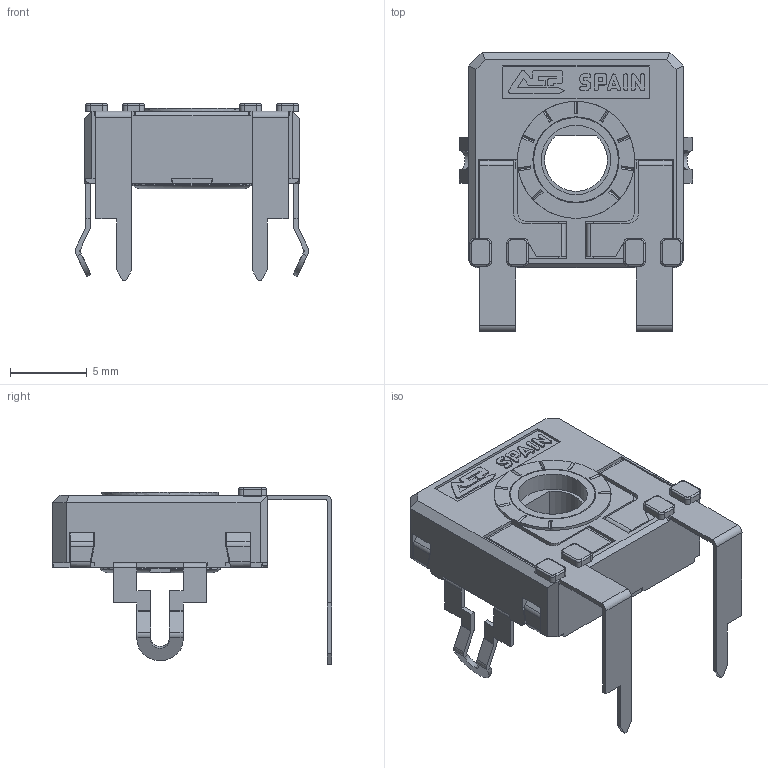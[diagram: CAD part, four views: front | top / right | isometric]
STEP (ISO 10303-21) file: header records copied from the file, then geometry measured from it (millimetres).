
FILE_DESCRIPTION(/* description */ (''),/* implementation_level */ '2;1');
FILE_NAME(/* name */ 'C:\Users\CEM\Desktop\ENVIAR\TRANSICION 3D CATALOGOS\RS14DVD11.stp',/* time_stamp */ '2025-12-10T10:18:33+01:00',/* author */ ('CEM'),/* organization */ (''),/* preprocessor_version */ 'ST-DEVELOPER v16.13',/* originating_system */ 'Autodesk Inventor 2018',/* authorisation */ '');
FILE_SCHEMA (('AUTOMOTIVE_DESIGN { 1 0 10303 214 3 1 1 }'));
Length unit declared in the file: millimetre
Products named in the file (1): CARCASA CA14 PGA
Bounding box: 15.16 x 18.15 x 11.5 mm (x, y, z)
Volume: 534.5 mm3; surface area: 1570.3 mm2
Topology: 1 solids, 1 shells, 717 faces, 2027 edges, 1303 vertices
Faces by surface type: plane 522, cylinder 158, torus 23, bspline 8, cone 6
Full cylindrical faces by diameter (mm): 4.5 x1, 5.5 x1, 5.6 x1, 5.752 x1, 6.8 x1, 7.6 x1
Entity records: 23319 total; most frequent: CARTESIAN_POINT 4240, ORIENTED_EDGE 4024, DIRECTION 3808, EDGE_CURVE 2012, LINE 1580, VECTOR 1580, VERTEX_POINT 1298, AXIS2_PLACEMENT_3D 1114
